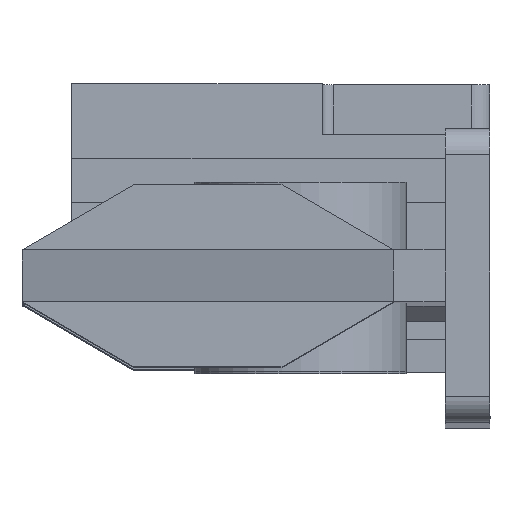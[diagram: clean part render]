
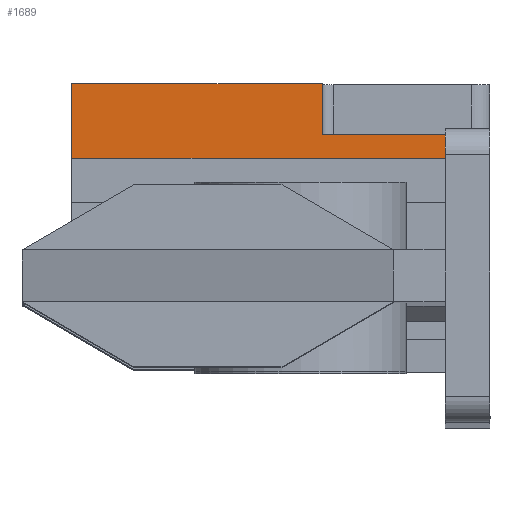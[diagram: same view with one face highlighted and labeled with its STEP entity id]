
A CAD part, top view. The second image highlights one B-rep face of the part: STEP entity #1689.
In plain terms, the highlighted planar face has unit normal (0, 0, 1).
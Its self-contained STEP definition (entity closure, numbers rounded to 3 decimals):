
#1 = ORIENTED_EDGE ( 'NONE', *, *, #2493, .F. ) ;
#15 = VECTOR ( 'NONE', #1798, 1000. ) ;
#89 = LINE ( 'NONE', #605, #116 ) ;
#116 = VECTOR ( 'NONE', #815, 1000. ) ;
#117 = CARTESIAN_POINT ( 'NONE',  ( -7.905, -27.895, -13.993 ) ) ;
#228 = VERTEX_POINT ( 'NONE', #3291 ) ;
#306 = EDGE_LOOP ( 'NONE', ( #1108, #1137, #3071, #1, #1500, #2456 ) ) ;
#344 = EDGE_CURVE ( 'NONE', #2453, #228, #89, .T. ) ;
#492 = LINE ( 'NONE', #3080, #15 ) ;
#595 = EDGE_CURVE ( 'NONE', #2793, #878, #1225, .T. ) ;
#605 = CARTESIAN_POINT ( 'NONE',  ( -11.224, -25.895, -13.993 ) ) ;
#639 = CARTESIAN_POINT ( 'NONE',  ( -17.964, -25.895, -13.993 ) ) ;
#656 = DIRECTION ( 'NONE',  ( 0., 1., 0. ) ) ;
#687 = VERTEX_POINT ( 'NONE', #1966 ) ;
#769 = CARTESIAN_POINT ( 'NONE',  ( -11.224, -27.245, -13.993 ) ) ;
#815 = DIRECTION ( 'NONE',  ( 1., 0., 0. ) ) ;
#878 = VERTEX_POINT ( 'NONE', #1855 ) ;
#979 = CARTESIAN_POINT ( 'NONE',  ( -11.224, -25.895, -13.993 ) ) ;
#991 = FACE_OUTER_BOUND ( 'NONE', #306, .T. ) ;
#996 = VECTOR ( 'NONE', #656, 1000. ) ;
#1002 = VECTOR ( 'NONE', #2253, 1000. ) ;
#1080 = LINE ( 'NONE', #1335, #3274 ) ;
#1108 = ORIENTED_EDGE ( 'NONE', *, *, #2930, .T. ) ;
#1137 = ORIENTED_EDGE ( 'NONE', *, *, #1982, .T. ) ;
#1221 = LINE ( 'NONE', #3225, #1992 ) ;
#1225 = LINE ( 'NONE', #117, #996 ) ;
#1271 = EDGE_CURVE ( 'NONE', #228, #3240, #492, .T. ) ;
#1335 = CARTESIAN_POINT ( 'NONE',  ( -25.281, -27.245, -13.993 ) ) ;
#1500 = ORIENTED_EDGE ( 'NONE', *, *, #1271, .F. ) ;
#1519 = PLANE ( 'NONE',  #1609 ) ;
#1609 = AXIS2_PLACEMENT_3D ( 'NONE', #979, #2015, #2031 ) ;
#1687 = DIRECTION ( 'NONE',  ( 1., 0., 0. ) ) ;
#1689 = ADVANCED_FACE ( 'NONE', ( #991 ), #1519, .F. ) ;
#1798 = DIRECTION ( 'NONE',  ( 0., -1., 0. ) ) ;
#1855 = CARTESIAN_POINT ( 'NONE',  ( -7.905, -27.245, -13.993 ) ) ;
#1966 = CARTESIAN_POINT ( 'NONE',  ( -17.964, -27.895, -13.993 ) ) ;
#1982 = EDGE_CURVE ( 'NONE', #687, #2793, #1221, .T. ) ;
#1992 = VECTOR ( 'NONE', #3276, 1000. ) ;
#2015 = DIRECTION ( 'NONE',  ( 0., 0., -1. ) ) ;
#2031 = DIRECTION ( 'NONE',  ( -1., 0., 0. ) ) ;
#2119 = CARTESIAN_POINT ( 'NONE',  ( -7.905, -27.895, -13.993 ) ) ;
#2253 = DIRECTION ( 'NONE',  ( 0., -1., 0. ) ) ;
#2453 = VERTEX_POINT ( 'NONE', #2797 ) ;
#2456 = ORIENTED_EDGE ( 'NONE', *, *, #344, .F. ) ;
#2493 = EDGE_CURVE ( 'NONE', #3240, #878, #1080, .T. ) ;
#2793 = VERTEX_POINT ( 'NONE', #2119 ) ;
#2797 = CARTESIAN_POINT ( 'NONE',  ( -17.964, -25.895, -13.993 ) ) ;
#2930 = EDGE_CURVE ( 'NONE', #2453, #687, #2948, .T. ) ;
#2948 = LINE ( 'NONE', #639, #1002 ) ;
#3071 = ORIENTED_EDGE ( 'NONE', *, *, #595, .T. ) ;
#3080 = CARTESIAN_POINT ( 'NONE',  ( -11.224, -25.895, -13.993 ) ) ;
#3225 = CARTESIAN_POINT ( 'NONE',  ( -25.281, -27.895, -13.993 ) ) ;
#3240 = VERTEX_POINT ( 'NONE', #769 ) ;
#3274 = VECTOR ( 'NONE', #1687, 1000. ) ;
#3276 = DIRECTION ( 'NONE',  ( 1., 0., 0. ) ) ;
#3291 = CARTESIAN_POINT ( 'NONE',  ( -11.224, -25.895, -13.993 ) ) ;
